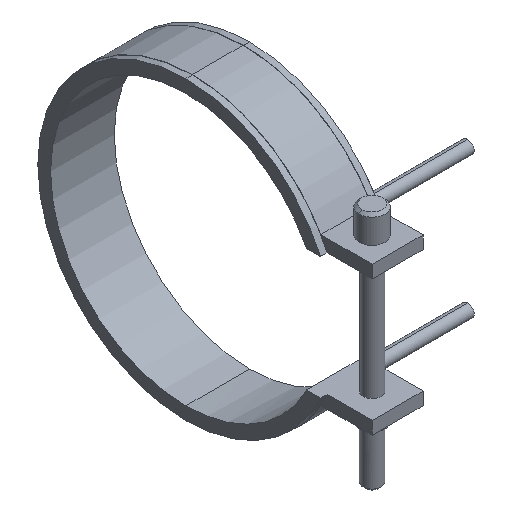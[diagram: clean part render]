
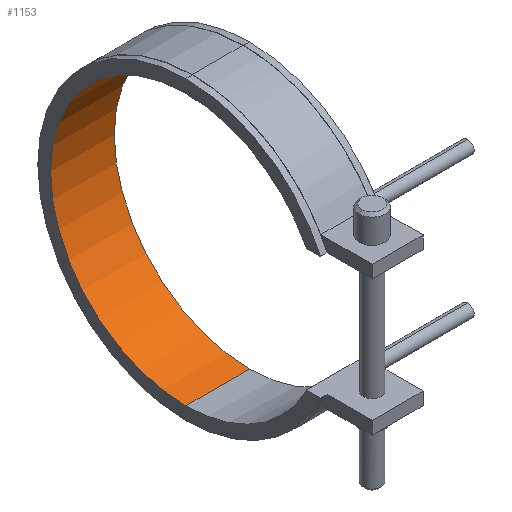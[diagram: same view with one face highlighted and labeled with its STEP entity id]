
A CAD part, isometric view. The second image highlights one B-rep face of the part: STEP entity #1153.
In plain terms, the highlighted cylindrical face has radius 42.5 mm (diameter 85 mm), a partial arc.
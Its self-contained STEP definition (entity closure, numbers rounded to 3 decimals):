
#834=CARTESIAN_POINT('Vertex',(-10.,0.,-42.5)) ;
#841=CARTESIAN_POINT('Vertex',(10.,0.,-42.5)) ;
#844=CARTESIAN_POINT('Line Origine',(10.,0.,-42.5)) ;
#862=CARTESIAN_POINT('Axis2P3D Location',(-10.,0.,0.)) ;
#866=CARTESIAN_POINT('Vertex',(-10.,0.,42.5)) ;
#923=CARTESIAN_POINT('Vertex',(10.,0.,42.5)) ;
#933=CARTESIAN_POINT('Line Origine',(10.,0.,42.5)) ;
#1024=CARTESIAN_POINT('Axis2P3D Location',(10.,0.,0.)) ;
#1142=CARTESIAN_POINT('Axis2P3D Location',(10.,0.,0.)) ;
#845=DIRECTION('Vector Direction',(1.,0.,0.)) ;
#863=DIRECTION('Axis2P3D Direction',(1.,0.,0.)) ;
#934=DIRECTION('Vector Direction',(1.,0.,0.)) ;
#1025=DIRECTION('Axis2P3D Direction',(1.,0.,0.)) ;
#1143=DIRECTION('Axis2P3D Direction',(1.,0.,-0.)) ;
#1144=DIRECTION('Axis2P3D XDirection',(0.,0.,-1.)) ;
#864=AXIS2_PLACEMENT_3D('Circle Axis2P3D',#862,#863,$) ;
#1026=AXIS2_PLACEMENT_3D('Circle Axis2P3D',#1024,#1025,$) ;
#1145=AXIS2_PLACEMENT_3D('Cylinder Axis2P3D',#1142,#1143,#1144) ;
#1148=ORIENTED_EDGE('',*,*,#1028,.T.) ;
#1149=ORIENTED_EDGE('',*,*,#937,.T.) ;
#1150=ORIENTED_EDGE('',*,*,#868,.F.) ;
#1151=ORIENTED_EDGE('',*,*,#848,.T.) ;
#846=VECTOR('Line Direction',#845,1.) ;
#935=VECTOR('Line Direction',#934,1.) ;
#1153=ADVANCED_FACE('14085020',(#1152),#1146,.F.) ;
#865=CIRCLE('generated circle',#864,42.5) ;
#1027=CIRCLE('generated circle',#1026,42.5) ;
#1146=CYLINDRICAL_SURFACE('generated cylinder',#1145,42.5) ;
#848=EDGE_CURVE('',#835,#842,#847,.T.) ;
#868=EDGE_CURVE('',#835,#867,#865,.T.) ;
#937=EDGE_CURVE('',#924,#867,#936,.F.) ;
#1028=EDGE_CURVE('',#842,#924,#1027,.T.) ;
#1147=EDGE_LOOP('',(#1148,#1149,#1150,#1151)) ;
#1152=FACE_OUTER_BOUND('',#1147,.T.) ;
#847=LINE('Line',#844,#846) ;
#936=LINE('Line',#933,#935) ;
#835=VERTEX_POINT('',#834) ;
#842=VERTEX_POINT('',#841) ;
#867=VERTEX_POINT('',#866) ;
#924=VERTEX_POINT('',#923) ;
